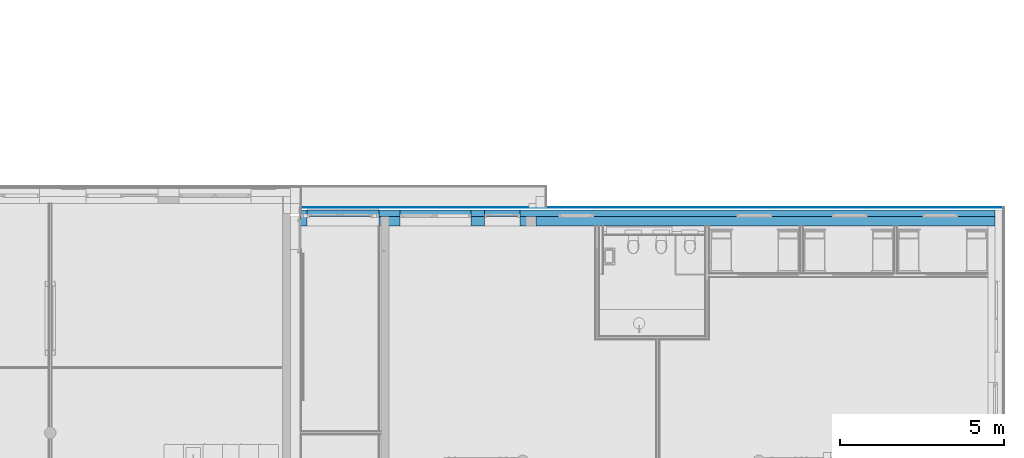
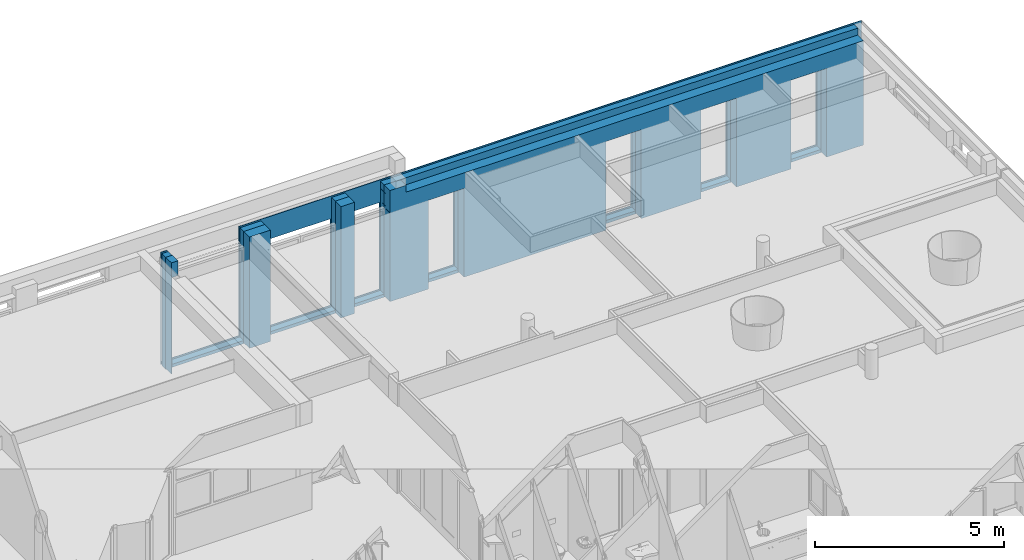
# One storey, part 46 of 167: 3 building element parts, 11 openings, 1 element without a shape of its own.
"""IFC2X3 building model written with IfcOpenShell, lengths in millimetres."""

from ifc_helpers import new_model, entity, si_unit, converted_unit, derived_unit, money_unit, direction, frame, origin_with_axes, place, context, subcontext, project, spatial, faceted_brep, material, type_object, element, aggregate, save


model = new_model("IFC2X3")

# Units and contexts
model_context = context("Model", 3, precision=0.01, world=origin_with_axes(), true_north=direction((0.0, 1.0)))
plan_context = context("Plan", 3, precision=0.01, world=origin_with_axes(), true_north=direction((0.0, 1.0)))
body_context = subcontext(model_context, "Body", "Model", "MODEL_VIEW")
ifc_project = project(units=[si_unit("LENGTHUNIT", "METRE", prefix="MILLI"), si_unit("AREAUNIT", "SQUARE_METRE"), si_unit("VOLUMEUNIT", "CUBIC_METRE"), converted_unit("PLANEANGLEUNIT", "DEGREE", entity("IfcPlaneAngleMeasure", 0.0174532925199), si_unit("PLANEANGLEUNIT", "RADIAN"), dimensions=[0, 0, 0, 0, 0, 0, 0]), si_unit("SOLIDANGLEUNIT", "STERADIAN"), money_unit("EUR"), converted_unit("TIMEUNIT", "Year", entity("IfcTimeMeasure", 31556926.0), si_unit("TIMEUNIT", "SECOND"), dimensions=[0, 0, 1, 0, 0, 0, 0]), si_unit("MASSUNIT", "GRAM", prefix="KILO"), si_unit("THERMODYNAMICTEMPERATUREUNIT", "DEGREE_CELSIUS"), si_unit("LUMINOUSINTENSITYUNIT", "LUMEN"), si_unit("ENERGYUNIT", "JOULE", prefix="MEGA"), derived_unit("THERMALCONDUCTANCEUNIT", [(si_unit("POWERUNIT", "WATT"), 1), (si_unit("LENGTHUNIT", "METRE"), -1), (si_unit("THERMODYNAMICTEMPERATUREUNIT", "KELVIN"), -1)]), derived_unit("SPECIFICHEATCAPACITYUNIT", [(si_unit("ENERGYUNIT", "JOULE"), 1), (si_unit("MASSUNIT", "GRAM", prefix="KILO"), -1), (si_unit("THERMODYNAMICTEMPERATUREUNIT", "KELVIN"), -1)]), derived_unit("MASSDENSITYUNIT", [(si_unit("MASSUNIT", "GRAM", prefix="KILO"), 1), (si_unit("VOLUMEUNIT", "CUBIC_METRE"), -1)])], contexts=[model_context, plan_context])

# Site, building, storey
site_placement = place(None, origin_with_axes())
site = spatial("IfcSite", under=ifc_project, at=site_placement, Name="Site", CompositionType="ELEMENT")
building_placement = place(site_placement, origin_with_axes())
building = spatial("IfcBuilding", under=site, at=building_placement, Name="Naam gebouw", CompositionType="ELEMENT")
storey_placement = place(building_placement, origin_with_axes())
storey = spatial("IfcBuildingStorey", under=building, at=storey_placement, Name="Begane grond", CompositionType="ELEMENT", Elevation=0.0)

# Wall, openings, building element parts
wall_type = type_object("IfcWallType", Name="_TenW_21_Spouwmuur ht-kz-300- RC 4,7 574", PredefinedType="NOTDEFINED")
wall_placement = place(storey_placement, frame((43200.0, 49800.0, -100.0), z_axis=(0.0, 0.0, 1.0), x_axis=(-1.0, 0.0, 0.0)))
wall = element("IfcWall", 1, at=wall_placement, inside=storey, type_object=wall_type, Name="21_Wand_Wand-x")
opening_1_placement = place(wall_placement, frame((4429.92335002, 0.0, 99.9999574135), z_axis=(0.0, 0.0, 1.0), x_axis=(1.0, 0.0, 0.0)))
element("IfcOpeningElement", 2, at=opening_1_placement, cuts=wall, Name="31_Raam_He-18", context=body_context, shape_type="Brep", body=[
    faceted_brep([(-542.0, -74.0, 0.0), (-542.0, -74.0, 2800.0), (-542.0, 874.0, 2800.0), (-542.0, 874.0, 0.0), (542.0, -74.0, 0.0), (542.0, -74.0, 2800.0), (542.0, 874.0, 2800.0), (542.0, 874.0, 0.0)], [[[0, 1, 2, 3]], [[0, 4, 5, 1]], [[1, 5, 6, 2]], [[3, 2, 6, 7]], [[4, 0, 3, 7]], [[5, 4, 7, 6]]]),
    faceted_brep([(-542.0, -74.0, 2800.0), (-542.0, -74.0, 0.0), (-542.0, -848.0, 0.0), (-542.0, -848.0, 2800.0), (542.0, -74.0, 2800.0), (542.0, -74.0, 0.0), (542.0, -848.0, 0.0), (542.0, -848.0, 2800.0)], [[[0, 1, 2, 3]], [[0, 4, 5, 1]], [[1, 5, 6, 2]], [[3, 2, 6, 7]], [[4, 0, 3, 7]], [[5, 4, 7, 6]]]),
])
opening_2_placement = place(wall_placement, frame((7340.53335002, 0.0, 99.9999574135), z_axis=(0.0, 0.0, 1.0), x_axis=(1.0, 0.0, 0.0)))
element("IfcOpeningElement", 3, at=opening_2_placement, cuts=wall, Name="31_Raam_He-18", context=body_context, shape_type="Brep", body=[
    faceted_brep([(-542.0, -74.0, 0.0), (-542.0, -74.0, 2800.0), (-542.0, 874.0, 2800.0), (-542.0, 874.0, 0.0), (542.0, -74.0, 0.0), (542.0, -74.0, 2800.0), (542.0, 874.0, 2800.0), (542.0, 874.0, 0.0)], [[[0, 1, 2, 3]], [[0, 4, 5, 1]], [[1, 5, 6, 2]], [[3, 2, 6, 7]], [[4, 0, 3, 7]], [[5, 4, 7, 6]]]),
    faceted_brep([(-542.0, -74.0, 2800.0), (-542.0, -74.0, 0.0), (-542.0, -848.0, 0.0), (-542.0, -848.0, 2800.0), (542.0, -74.0, 2800.0), (542.0, -74.0, 0.0), (542.0, -848.0, 0.0), (542.0, -848.0, 2800.0)], [[[0, 1, 2, 3]], [[0, 4, 5, 1]], [[1, 5, 6, 2]], [[3, 2, 6, 7]], [[4, 0, 3, 7]], [[5, 4, 7, 6]]]),
])
opening_3_placement = place(wall_placement, frame((17604.26335, 0.0, 99.9999574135), z_axis=(0.0, 0.0, 1.0), x_axis=(1.0, 0.0, 0.0)))
element("IfcOpeningElement", 4, at=opening_3_placement, cuts=wall, Name="31_Raam_He-09s", context=body_context, shape_type="Brep", body=[
    faceted_brep([(-541.26, -74.0, 0.0), (-541.26, -74.0, 2800.0), (-541.26, 874.0, 2800.0), (-541.26, 874.0, 0.0), (541.26, -74.0, 0.0), (541.26, -74.0, 2800.0), (541.26, 874.0, 2800.0), (541.26, 874.0, 0.0)], [[[0, 1, 2, 3]], [[0, 4, 5, 1]], [[1, 5, 6, 2]], [[3, 2, 6, 7]], [[4, 0, 3, 7]], [[5, 4, 7, 6]]]),
    faceted_brep([(-541.26, -74.0, 2800.0), (-541.26, -74.0, 0.0), (-541.26, -848.0, 0.0), (-541.26, -848.0, 2800.0), (541.26, -74.0, 2800.0), (541.26, -74.0, 0.0), (541.26, -848.0, 0.0), (541.26, -848.0, 2800.0)], [[[0, 1, 2, 3]], [[0, 4, 5, 1]], [[1, 5, 6, 2]], [[3, 2, 6, 7]], [[4, 0, 3, 7]], [[5, 4, 7, 6]]]),
])
opening_4_placement = place(wall_placement, frame((12764.9704785, 0.0, 99.9999574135), z_axis=(0.0, 0.0, 1.0), x_axis=(1.0, 0.0, 0.0)))
element("IfcOpeningElement", 5, at=opening_4_placement, cuts=wall, Name="31_Raam_He-12", context=body_context, shape_type="Brep", body=[
    faceted_brep([(-542.0, -74.0, 0.0), (-542.0, -74.0, 2800.0), (-542.0, 874.0, 2800.0), (-542.0, 874.0, 0.0), (542.0, -74.0, 0.0), (542.0, -74.0, 2800.0), (542.0, 874.0, 2800.0), (542.0, 874.0, 0.0)], [[[0, 1, 2, 3]], [[0, 4, 5, 1]], [[1, 5, 6, 2]], [[3, 2, 6, 7]], [[4, 0, 3, 7]], [[5, 4, 7, 6]]]),
    faceted_brep([(-542.0, -74.0, 2800.0), (-542.0, -74.0, 0.0), (-542.0, -848.0, 0.0), (-542.0, -848.0, 2800.0), (542.0, -74.0, 2800.0), (542.0, -74.0, 0.0), (542.0, -848.0, 0.0), (542.0, -848.0, 2800.0)], [[[0, 1, 2, 3]], [[0, 4, 5, 1]], [[1, 5, 6, 2]], [[3, 2, 6, 7]], [[4, 0, 3, 7]], [[5, 4, 7, 6]]]),
])
opening_5_placement = place(wall_placement, frame((16524.25335, 0.0, 99.9999574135), z_axis=(0.0, 0.0, 1.0), x_axis=(1.0, 0.0, 0.0)))
element("IfcOpeningElement", 6, at=opening_5_placement, cuts=wall, Name="31_Raam_He-15", context=body_context, shape_type="Brep", body=[
    faceted_brep([(-542.0, -74.0, 0.0), (-542.0, -74.0, 2800.0), (-542.0, 874.0, 2800.0), (-542.0, 874.0, 0.0), (542.0, -74.0, 0.0), (542.0, -74.0, 2800.0), (542.0, 874.0, 2800.0), (542.0, 874.0, 0.0)], [[[0, 1, 2, 3]], [[0, 4, 5, 1]], [[1, 5, 6, 2]], [[3, 2, 6, 7]], [[4, 0, 3, 7]], [[5, 4, 7, 6]]]),
    faceted_brep([(-542.0, -74.0, 2800.0), (-542.0, -74.0, 0.0), (-542.0, -848.0, 0.0), (-542.0, -848.0, 2800.0), (542.0, -74.0, 2800.0), (542.0, -74.0, 0.0), (542.0, -848.0, 0.0), (542.0, -848.0, 2800.0)], [[[0, 1, 2, 3]], [[0, 4, 5, 1]], [[1, 5, 6, 2]], [[3, 2, 6, 7]], [[4, 0, 3, 7]], [[5, 4, 7, 6]]]),
])
opening_6_placement = place(wall_placement, frame((1672.50335002, 0.0, 99.9999574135), z_axis=(0.0, 0.0, 1.0), x_axis=(1.0, 0.0, 0.0)))
element("IfcOpeningElement", 7, at=opening_6_placement, cuts=wall, Name="31_Raam_He-18", context=body_context, shape_type="Brep", body=[
    faceted_brep([(-542.0, -74.0, 0.0), (-542.0, -74.0, 2800.0), (-542.0, 874.0, 2800.0), (-542.0, 874.0, 0.0), (542.0, -74.0, 0.0), (542.0, -74.0, 2800.0), (542.0, 874.0, 2800.0), (542.0, 874.0, 0.0)], [[[0, 1, 2, 3]], [[0, 4, 5, 1]], [[1, 5, 6, 2]], [[3, 2, 6, 7]], [[4, 0, 3, 7]], [[5, 4, 7, 6]]]),
    faceted_brep([(-542.0, -74.0, 2800.0), (-542.0, -74.0, 0.0), (-542.0, -848.0, 0.0), (-542.0, -848.0, 2800.0), (542.0, -74.0, 2800.0), (542.0, -74.0, 0.0), (542.0, -848.0, 0.0), (542.0, -848.0, 2800.0)], [[[0, 1, 2, 3]], [[0, 4, 5, 1]], [[1, 5, 6, 2]], [[3, 2, 6, 7]], [[4, 0, 3, 7]], [[5, 4, 7, 6]]]),
])
opening_7_placement = place(wall_placement, frame((19967.9999954, 0.0, 100.0), z_axis=(0.0, 0.0, 1.0), x_axis=(1.0, 0.0, 0.0)))
element("IfcOpeningElement", 8, at=opening_7_placement, cuts=wall, Name="32_Deur_He-03", context=body_context, shape_type="Brep", body=[
    faceted_brep([(-1183.00000459, 874.0, 3050.0), (-1183.00000459, 874.0, 0.0), (-1183.00000459, -74.0, 0.0), (-1183.00000459, -74.0, 3050.0), (1183.00000459, 874.0, 3050.0), (1183.00000459, 874.0, 0.0), (1183.00000459, -74.0, 0.0), (1183.00000459, -74.0, 3050.0)], [[[0, 1, 2, 3]], [[0, 4, 5, 1]], [[1, 5, 6, 2]], [[3, 2, 6, 7]], [[4, 0, 3, 7]], [[5, 4, 7, 6]]]),
    faceted_brep([(-1183.00000459, -848.0, 0.0), (-1183.00000459, -848.0, 3050.0), (-1183.00000459, -74.0, 3050.0), (-1183.00000459, -74.0, 0.0), (1183.00000459, -848.0, 0.0), (1183.00000459, -848.0, 3050.0), (1183.00000459, -74.0, 3050.0), (1183.00000459, -74.0, 0.0)], [[[0, 1, 2, 3]], [[0, 4, 5, 1]], [[1, 5, 6, 2]], [[3, 2, 6, 7]], [[4, 0, 3, 7]], [[5, 4, 7, 6]]]),
])
opening_8_placement = place(wall_placement, frame((15028.650887, 0.0, 100.0), z_axis=(0.0, 0.0, 1.0), x_axis=(1.0, 0.0, 0.0)))
element("IfcOpeningElement", 9, at=opening_8_placement, cuts=wall, Name="32_Deur_He-06", context=body_context, shape_type="Brep", body=[
    faceted_brep([(-542.0, 874.0, 2800.0), (-542.0, 874.0, 0.0), (-542.0, -74.0, 0.0), (-542.0, -74.0, 2800.0), (542.0, 874.0, 2800.0), (542.0, 874.0, 0.0), (542.0, -74.0, 0.0), (542.0, -74.0, 2800.0)], [[[0, 1, 2, 3]], [[0, 4, 5, 1]], [[1, 5, 6, 2]], [[3, 2, 6, 7]], [[4, 0, 3, 7]], [[5, 4, 7, 6]]]),
    faceted_brep([(-542.0, -848.0, 0.0), (-542.0, -848.0, 2800.0), (-542.0, -74.0, 2800.0), (-542.0, -74.0, 0.0), (542.0, -848.0, 0.0), (542.0, -848.0, 2800.0), (542.0, -74.0, 2800.0), (542.0, -74.0, 0.0)], [[[0, 1, 2, 3]], [[0, 4, 5, 1]], [[1, 5, 6, 2]], [[3, 2, 6, 7]], [[4, 0, 3, 7]], [[5, 4, 7, 6]]]),
])
opening_9_placement = place(wall_placement, frame((43200.0, 49800.0, 100.0), z_axis=(0.0, 0.0, 1.0), x_axis=(-1.0, 0.0, 0.0)))
element("IfcOpeningElement", 10, at=opening_9_placement, cuts=wall, Name="_Lege opening_Doorvoer-x", context=body_context, shape_type="Brep", body=[
    faceted_brep([(24415.0000092, 50074.0, 3050.0), (24415.0000092, 50074.0, 3529.99999902), (24415.0000092, 48926.0, 3529.99999902), (24415.0000092, 48926.0, 3050.0), (22225.0000092, 50074.0, 3050.0), (22225.0000092, 50074.0, 3529.99999902), (22225.0000092, 48926.0, 3529.99999902), (22225.0000092, 48926.0, 3050.0)], [[[0, 1, 2, 3]], [[0, 4, 5, 1]], [[1, 5, 6, 2]], [[3, 2, 6, 7]], [[4, 0, 3, 7]], [[5, 4, 7, 6]]]),
])
opening_10_placement = place(wall_placement, frame((43200.0, 49800.0, 100.0), z_axis=(0.0, 0.0, 1.0), x_axis=(-1.0, 0.0, 0.0)))
element("IfcOpeningElement", 11, at=opening_10_placement, cuts=wall, Name="_Lege opening_Doorvoer-x", context=body_context, shape_type="Brep", body=[
    faceted_brep([(27222.8119318, 50000.0, 2799.99995741), (27222.8119318, 50000.0, 3529.99999902), (27222.8119318, 48926.0, 3529.99999902), (27222.8119318, 48926.0, 2799.99995741), (25054.47665, 50000.0, 2799.99995741), (25054.47665, 50000.0, 3529.99999902), (25054.47665, 48926.0, 3529.99999902), (25054.47665, 48926.0, 2799.99995741)], [[[0, 1, 2, 3]], [[0, 4, 5, 1]], [[1, 5, 6, 2]], [[3, 2, 6, 7]], [[4, 0, 3, 7]], [[5, 4, 7, 6]]]),
])
opening_11_placement = place(wall_placement, frame((43200.0, 49800.0, 100.0), z_axis=(0.0, 0.0, 1.0), x_axis=(-1.0, 0.0, 0.0)))
element("IfcOpeningElement", 12, at=opening_11_placement, cuts=wall, Name="_Lege opening_Doorvoer-x", context=body_context, shape_type="Brep", body=[
    faceted_brep([(28713.349113, 50000.0, 2799.99995741), (28713.349113, 50000.0, 3529.99999902), (28713.349113, 48926.0, 3529.99999902), (28713.349113, 48926.0, 2799.99995741), (27630.829113, 50000.0, 2799.99995741), (27630.829113, 50000.0, 3529.99999902), (27630.829113, 48926.0, 3529.99999902), (27630.829113, 48926.0, 2799.99995741)], [[[0, 1, 2, 3]], [[0, 4, 5, 1]], [[1, 5, 6, 2]], [[3, 2, 6, 7]], [[4, 0, 3, 7]], [[5, 4, 7, 6]]]),
])
ifc_material_1 = material(Name="Steen - Kalkzandsteen C")
building_element_part_1_placement = place(wall_placement, origin_with_axes())
building_element_part_1 = element("IfcBuildingElementPart", 13, at=building_element_part_1_placement, material=ifc_material_1, Name="Steen - Kalkzandsteen C", context=body_context, shape_type="Brep", body=[
    faceted_brep([(18145.52335, 0.0, 30.0), (18784.9999908, 0.0, 30.0), (18784.9999908, 0.0, 100.0), (18784.9999908, 0.0, 3129.99999902), (18784.9999908, 0.0, 3150.0), (18784.9999908, 0.0, 3629.99999902), (18145.52335, 0.0, 3629.99999902), (18145.52335, 0.0, 3399.99995741), (18167.1880682, 0.0, 3399.99995741), (18167.1880682, 0.0, 2899.99995741), (18149.1880682, 0.0, 2899.99995741), (18149.1880682, 0.0, 2979.99995741), (18145.52335, 0.0, 2979.99995741), (18145.52335, 0.0, 2899.99995741), (18145.52335, 0.0, 99.9999574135), (18784.9999908, 300.0, 30.0), (18145.52335, 300.0, 30.0), (18784.9999908, 300.0, 100.0), (18784.9999908, 300.0, 3150.0), (18784.9999908, 70.0, 3150.0), (18784.9999908, 70.0, 3129.99999902), (18784.9999908, 300.0, 3629.99999902), (18145.52335, 300.0, 3629.99999902), (18145.52335, 70.0, 2979.99995741), (18145.52335, 70.0, 2989.99995741), (18145.52335, 0.0, 2989.99995741), (18145.52335, 0.0, 3389.99995741), (18145.52335, 70.0, 3389.99995741), (18145.52335, 70.0, 3399.99995741), (18145.52335, 300.0, 2899.99995741), (18145.52335, 282.0, 2899.99995741), (18145.52335, 282.0, 2909.99995741), (18145.52335, 82.335281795, 2909.99995741), (18145.52335, 82.335281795, 2899.99995741), (18167.1880682, 70.0, 3399.99995741), (18167.1880682, 70.0, 2899.99995741), (18149.1880682, 70.0, 2899.99995741), (18149.1880682, 70.0, 2979.99995741), (18145.52335, 300.0, 99.9999574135), (18149.1880682, 70.0, 2989.99995741), (18149.1880682, 70.0, 3389.99995741), (18149.1880682, 0.0, 2989.99995741), (18149.1880682, 0.0, 3389.99995741), (18167.1880682, 282.0, 2899.99995741), (18167.1880682, 282.0, 2909.99995741), (18167.1880682, 82.335281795, 2909.99995741), (18167.1880682, 82.335281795, 2899.99995741)], [[[0, 1, 2, 3, 4, 5, 6, 7, 8, 9, 10, 11, 12, 13, 14]], [[15, 1, 0, 16]], [[1, 15, 17, 2]], [[18, 19, 20, 3, 2, 17]], [[4, 3, 20, 19]], [[5, 4, 19, 18, 21]], [[5, 21, 22, 6]], [[13, 12, 23, 24, 25, 26, 27, 28, 7, 6, 22, 29, 30, 31, 32, 33]], [[7, 28, 34, 8]], [[35, 9, 8, 34]], [[36, 10, 9, 35]], [[37, 11, 10, 36]], [[23, 12, 11, 37]], [[13, 33, 30, 29, 38, 14]], [[38, 16, 0, 14]], [[22, 21, 18, 17, 15, 16, 38, 29]], [[39, 24, 23, 37, 36, 35, 34, 28, 27, 40]], [[41, 25, 24, 39]], [[25, 41, 42, 26]], [[27, 26, 42, 40]], [[31, 30, 43, 44]], [[32, 31, 44, 45]], [[33, 32, 45, 46]], [[33, 46, 43, 30]], [[41, 39, 40, 42]], [[46, 45, 44, 43]]]),
    faceted_brep([(15569.170887, 300.0, 2900.0), (15569.170887, 0.0, 2900.0), (15569.170887, 0.0, 3629.99999902), (15569.170887, 300.0, 3629.99999902), (15570.650887, 0.0, 2900.0), (15570.650887, 300.0, 2900.0), (15570.650887, 0.0, 100.0), (15570.650887, 0.0, 30.0), (15982.25335, 0.0, 30.0), (15982.25335, 0.0, 99.9999574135), (15982.25335, 0.0, 2899.99995741), (15977.1880682, 0.0, 2899.99995741), (15977.1880682, 0.0, 3629.99999902), (15977.1880682, 300.0, 3629.99999902), (15977.1880682, 300.0, 2899.99995741), (15982.25335, 300.0, 2899.99995741), (15982.25335, 300.0, 99.9999574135), (15982.25335, 300.0, 30.0), (15570.650887, 300.0, 30.0), (15570.650887, 300.0, 100.0)], [[[0, 1, 2, 3]], [[4, 1, 0, 5]], [[4, 6, 7, 8, 9, 10, 11, 12, 2, 1]], [[13, 3, 2, 12]], [[5, 0, 3, 13, 14, 15, 16, 17, 18, 19]], [[6, 4, 5, 19]], [[6, 19, 18, 7]], [[8, 7, 18, 17]], [[16, 9, 8, 17]], [[15, 10, 9, 16]], [[10, 15, 14, 11]], [[14, 13, 12, 11]]]),
    faceted_brep([(20974.9999908, 0.0, 3629.99999902), (20974.9999908, 300.0, 3629.99999902), (20974.9999908, 300.0, 3150.0), (20974.9999908, 0.0, 3150.0), (21171.0, 0.0, 3629.99999902), (21171.0, 300.0, 3629.99999902), (21151.0, 300.0, 30.0), (21151.0, 300.0, 100.0), (21151.0, 300.0, 3150.0), (21171.0, 300.0, 30.0), (21151.0, 0.0, 3150.0), (21151.0, 0.0, 100.0), (21151.0, 0.0, 30.0), (21171.0, 0.0, 30.0)], [[[0, 1, 2, 3]], [[4, 5, 1, 0]], [[6, 7, 8, 2, 1, 5, 9]], [[2, 8, 10, 3]], [[0, 3, 10, 11, 12, 13, 4]], [[13, 9, 5, 4]], [[6, 12, 11, 7]], [[8, 7, 11, 10]], [[12, 6, 9, 13]]]),
    faceted_brep([(14486.650887, 0.0, 100.0), (14486.650887, 0.0, 2900.0), (14486.650887, 0.0, 2979.99995741), (14482.170887, 0.0, 2979.99995741), (14482.170887, 0.0, 2899.99995741), (14464.170887, 0.0, 2899.99995741), (14464.170887, 0.0, 3399.99995741), (14486.650887, 0.0, 3399.99995741), (14486.650887, 0.0, 3629.99999902), (14000.0, 0.0, 3629.99999902), (14000.0, 0.0, 3405.0), (0.0, 0.0, 3405.0), (0.0, 0.0, 30.0), (1130.50335002, 0.0, 30.0), (1130.50335002, 0.0, 99.9999574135), (1130.50335002, 0.0, 2899.99995741), (2214.50335002, 0.0, 2899.99995741), (2214.50335002, 0.0, 99.9999574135), (2214.50335002, 0.0, 30.0), (3887.92335002, 0.0, 30.0), (3887.92335002, 0.0, 99.9999574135), (3887.92335002, 0.0, 2899.99995741), (4971.92335002, 0.0, 2899.99995741), (4971.92335002, 0.0, 99.9999574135), (4971.92335002, 0.0, 30.0), (6798.53335002, 0.0, 30.0), (6798.53335002, 0.0, 99.9999574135), (6798.53335002, 0.0, 2899.99995741), (7882.53335002, 0.0, 2899.99995741), (7882.53335002, 0.0, 99.9999574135), (7882.53335002, 0.0, 30.0), (12222.9704785, 0.0, 30.0), (12222.9704785, 0.0, 99.9999574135), (12222.9704785, 0.0, 2899.99995741), (13306.9704785, 0.0, 2899.99995741), (13306.9704785, 0.0, 99.9999574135), (13306.9704785, 0.0, 30.0), (14486.650887, 0.0, 30.0), (14486.650887, 82.335281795, 2900.0), (14486.650887, 300.0, 100.0), (14486.650887, 300.0, 2900.0), (14486.650887, 282.0, 2900.0), (14486.650887, 300.0, 3629.99999902), (14486.650887, 70.0, 3399.99995741), (14486.650887, 70.0, 3389.99995741), (14486.650887, 0.0, 3389.99995741), (14486.650887, 0.0, 2989.99995741), (14486.650887, 70.0, 2989.99995741), (14486.650887, 70.0, 2979.99995741), (14486.650887, 82.335281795, 2909.99995741), (14486.650887, 282.0, 2909.99995741), (14482.170887, 70.0, 2979.99995741), (14482.170887, 70.0, 2899.99995741), (14464.170887, 70.0, 2899.99995741), (14464.170887, 70.0, 3399.99995741), (14000.0, 300.0, 3629.99999902), (14000.0, 300.0, 3405.0), (0.0, 300.0, 3405.0), (0.0, 300.0, 30.0), (1130.50335002, 300.0, 30.0), (1130.50335002, 300.0, 99.9999574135), (1130.50335002, 300.0, 2899.99995741), (2214.50335002, 300.0, 2899.99995741), (2214.50335002, 300.0, 99.9999574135), (2214.50335002, 300.0, 30.0), (3887.92335002, 300.0, 30.0), (3887.92335002, 300.0, 99.9999574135), (3887.92335002, 300.0, 2899.99995741), (4971.92335002, 300.0, 2899.99995741), (4971.92335002, 300.0, 99.9999574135), (4971.92335002, 300.0, 30.0), (6798.53335002, 300.0, 30.0), (6798.53335002, 300.0, 99.9999574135), (6798.53335002, 300.0, 2899.99995741), (7882.53335002, 300.0, 2899.99995741), (7882.53335002, 300.0, 99.9999574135), (7882.53335002, 300.0, 30.0), (12222.9704785, 300.0, 30.0), (12222.9704785, 300.0, 99.9999574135), (12222.9704785, 300.0, 2899.99995741), (13306.9704785, 300.0, 2899.99995741), (13306.9704785, 300.0, 99.9999574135), (13306.9704785, 300.0, 30.0), (14486.650887, 300.0, 30.0), (14469.170887, 282.0, 2899.99995741), (14469.170887, 82.335281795, 2899.99995741), (14482.170887, 70.0, 2989.99995741), (14482.170887, 70.0, 3389.99995741), (14482.170887, 0.0, 3389.99995741), (14482.170887, 0.0, 2989.99995741), (14469.170887, 82.335281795, 2909.99995741), (14469.170887, 282.0, 2909.99995741)], [[[0, 1, 2, 3, 4, 5, 6, 7, 8, 9, 10, 11, 12, 13, 14, 15, 16, 17, 18, 19, 20, 21, 22, 23, 24, 25, 26, 27, 28, 29, 30, 31, 32, 33, 34, 35, 36, 37]], [[38, 1, 0, 39, 40, 41]], [[41, 40, 42, 8, 7, 43, 44, 45, 46, 47, 48, 2, 1, 38, 49, 50]], [[3, 2, 48, 51]], [[51, 52, 4, 3]], [[5, 4, 52, 53]], [[6, 5, 53, 54]], [[6, 54, 43, 7]], [[9, 8, 42, 55]], [[10, 9, 55, 56]], [[11, 10, 56, 57]], [[57, 58, 12, 11]], [[13, 12, 58, 59]], [[59, 60, 14, 13]], [[61, 15, 14, 60]], [[62, 16, 15, 61]], [[63, 17, 16, 62]], [[18, 17, 63, 64]], [[19, 18, 64, 65]], [[66, 20, 19, 65]], [[21, 20, 66, 67]], [[22, 21, 67, 68]], [[23, 22, 68, 69]], [[23, 69, 70, 24]], [[25, 24, 70, 71]], [[71, 72, 26, 25]], [[73, 27, 26, 72]], [[74, 28, 27, 73]], [[75, 29, 28, 74]], [[30, 29, 75, 76]], [[31, 30, 76, 77]], [[32, 31, 77, 78]], [[32, 78, 79, 33]], [[33, 79, 80, 34]], [[34, 80, 81, 35]], [[81, 82, 36, 35]], [[37, 36, 82, 83]], [[39, 0, 37, 83]], [[40, 39, 83, 82, 81, 80, 79, 78, 77, 76, 75, 74, 73, 72, 71, 70, 69, 68, 67, 66, 65, 64, 63, 62, 61, 60, 59, 58, 57, 56, 55, 42]], [[38, 41, 84, 85]], [[54, 53, 52, 51, 48, 47, 86, 87, 44, 43]], [[88, 45, 44, 87]], [[46, 45, 88, 89]], [[89, 86, 47, 46]], [[38, 85, 90, 49]], [[49, 90, 91, 50]], [[50, 91, 84, 41]], [[91, 90, 85, 84]], [[89, 88, 87, 86]]]),
])
ifc_material_2 = material(Name="Isolatie - Steenwol zacht")
building_element_part_2_placement = place(wall_placement, origin_with_axes())
building_element_part_2 = element("IfcBuildingElementPart", 14, at=building_element_part_2_placement, material=ifc_material_2, Name="Isolatie - Steenwol zacht", context=body_context, shape_type="Brep", body=[
    faceted_brep([(14486.650887, -74.0, 100.0), (14486.650887, -74.0, 2900.0), (14486.650887, -200.0, 2900.0), (14486.650887, -200.0, 100.0), (14486.650887, 0.0, 2900.0), (14486.650887, 0.0, 100.0), (14486.650887, 0.0, 2979.99995741), (14486.650887, -90.0, 2979.99995741), (14486.650887, -90.0, 2989.99995741), (14486.650887, 0.0, 2989.99995741), (14486.650887, 0.0, 3389.99995741), (14486.650887, -170.0, 3389.99995741), (14486.650887, -170.0, 3399.99995741), (14486.650887, 0.0, 3399.99995741), (14486.650887, 0.0, 3629.99999902), (14486.650887, -200.0, 3629.99999902), (15569.170887, -200.0, 3629.99999902), (15569.170887, -200.0, 2900.0), (15570.650887, -200.0, 2900.0), (15570.650887, -200.0, 100.0), (0.0, -200.0, 3629.99999903), (0.0, -200.0, 0.0), (21171.0, -200.0, 0.0), (21171.0, -200.0, 3629.99999902), (20974.9999908, -200.0, 3629.99999902), (20974.9999908, -200.0, 3150.0), (21151.0, -200.0, 3150.0), (21151.0, -200.0, 100.0), (18784.9999908, -200.0, 100.0), (18784.9999908, -200.0, 3150.0), (18784.9999908, -200.0, 3629.99999902), (18145.52335, -200.0, 3629.99999902), (18145.52335, -200.0, 2899.99995741), (18145.52335, -200.0, 99.9999574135), (15982.25335, -200.0, 99.9999574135), (15982.25335, -200.0, 2899.99995741), (15977.1880682, -200.0, 2899.99995741), (15977.1880682, -200.0, 3629.99999902), (4971.92335002, -200.0, 2899.99995741), (4971.92335002, -200.0, 99.9999574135), (3887.92335002, -200.0, 99.9999574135), (3887.92335002, -200.0, 2899.99995741), (6798.53335002, -200.0, 99.9999574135), (6798.53335002, -200.0, 2899.99995741), (7882.53335002, -200.0, 2899.99995741), (7882.53335002, -200.0, 99.9999574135), (12222.9704785, -200.0, 99.9999574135), (12222.9704785, -200.0, 2899.99995741), (13306.9704785, -200.0, 2899.99995741), (13306.9704785, -200.0, 99.9999574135), (1130.50335002, -200.0, 99.9999574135), (1130.50335002, -200.0, 2899.99995741), (2214.50335002, -200.0, 2899.99995741), (2214.50335002, -200.0, 99.9999574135), (15570.650887, -74.0, 100.0), (15570.650887, 0.0, 100.0), (15570.650887, 0.0, 2900.0), (15569.170887, 0.0, 2900.0), (15569.170887, 0.0, 3629.99999902), (15977.1880682, 0.0, 3629.99999902), (15977.1880682, 0.0, 2899.99995741), (15982.25335, 0.0, 2899.99995741), (15982.25335, 0.0, 99.9999574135), (18145.52335, 0.0, 99.9999574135), (18145.52335, 0.0, 2899.99995741), (18145.52335, 0.0, 2979.99995741), (18149.1880682, 0.0, 2979.99995741), (18149.1880682, 0.0, 2899.99995741), (18167.1880682, 0.0, 2899.99995741), (18167.1880682, 0.0, 3399.99995741), (18145.52335, 0.0, 3399.99995741), (18145.52335, 0.0, 3629.99999902), (18784.9999908, 0.0, 3629.99999902), (18784.9999908, 0.0, 3150.0), (18784.9999908, 0.0, 3129.99999902), (18784.9999908, 0.0, 100.0), (21151.0, 0.0, 100.0), (21151.0, 0.0, 3150.0), (20974.9999908, 0.0, 3150.0), (20974.9999908, 0.0, 3629.99999902), (21171.0, 0.0, 3629.99999902), (21171.0, 0.0, 0.0), (0.0, 0.0, 0.0), (0.0, 0.0, 3629.99999905), (14464.170887, 0.0, 3399.99995741), (14464.170887, 0.0, 2899.99995741), (14482.170887, 0.0, 2899.99995741), (14482.170887, 0.0, 2979.99995741), (3887.92335002, 0.0, 2899.99995741), (3887.92335002, 0.0, 99.9999574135), (4971.92335002, 0.0, 99.9999574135), (4971.92335002, 0.0, 2899.99995741), (7882.53335002, 0.0, 99.9999574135), (7882.53335002, 0.0, 2899.99995741), (6798.53335002, 0.0, 2899.99995741), (6798.53335002, 0.0, 99.9999574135), (13306.9704785, 0.0, 99.9999574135), (13306.9704785, 0.0, 2899.99995741), (12222.9704785, 0.0, 2899.99995741), (12222.9704785, 0.0, 99.9999574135), (2214.50335002, 0.0, 99.9999574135), (2214.50335002, 0.0, 2899.99995741), (1130.50335002, 0.0, 2899.99995741), (1130.50335002, 0.0, 99.9999574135), (14482.170887, -90.0, 2979.99995741), (14482.170887, -90.0, 2989.99995741), (14482.170887, 0.0, 2989.99995741), (14482.170887, 0.0, 3389.99995741), (14482.170887, -170.0, 3389.99995741), (14482.170887, -170.0, 3399.99995741), (14482.170887, -188.0, 3399.99995741), (14464.170887, -188.0, 3399.99995741), (15569.170887, -74.0, 2900.0), (15570.650887, -74.0, 2900.0), (20974.9999908, -74.0, 3150.0), (21151.0, -74.0, 3150.0), (21151.0, -74.0, 100.0), (18784.9999908, -74.0, 100.0), (18784.9999908, -74.0, 3129.99999902), (18784.9999908, -188.0, 3129.99999902), (18784.9999908, -188.0, 3150.0), (18145.52335, 0.0, 2989.99995741), (18145.52335, -90.0, 2989.99995741), (18145.52335, -90.0, 2979.99995741), (18145.52335, -74.0, 2899.99995741), (18145.52335, -170.0, 3399.99995741), (18145.52335, -170.0, 3389.99995741), (18145.52335, 0.0, 3389.99995741), (18145.52335, -74.0, 99.9999574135), (15982.25335, -74.0, 99.9999574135), (15982.25335, -74.0, 2899.99995741), (4971.92335002, -74.0, 2899.99995741), (4971.92335002, -74.0, 99.9999574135), (3887.92335002, -74.0, 99.9999574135), (3887.92335002, -74.0, 2899.99995741), (6798.53335002, -74.0, 99.9999574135), (6798.53335002, -74.0, 2899.99995741), (7882.53335002, -74.0, 2899.99995741), (7882.53335002, -74.0, 99.9999574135), (12222.9704785, -74.0, 99.9999574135), (12222.9704785, -74.0, 2899.99995741), (13306.9704785, -74.0, 2899.99995741), (13306.9704785, -74.0, 99.9999574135), (1130.50335002, -74.0, 99.9999574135), (1130.50335002, -74.0, 2899.99995741), (2214.50335002, -74.0, 2899.99995741), (2214.50335002, -74.0, 99.9999574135), (18149.1880682, -90.0, 2979.99995741), (18149.1880682, 0.0, 3389.99995741), (18149.1880682, -170.0, 3389.99995741), (18149.1880682, -170.0, 3399.99995741), (18149.1880682, -188.0, 3399.99995741), (18149.1880682, -188.0, 2899.99995741), (18149.1880682, -90.0, 2989.99995741), (18149.1880682, 0.0, 2989.99995741), (18167.1880682, -188.0, 2899.99995741), (18167.1880682, -188.0, 3399.99995741), (14464.170887, -188.0, 2899.99995741), (14482.170887, -188.0, 2899.99995741)], [[[0, 1, 2, 3]], [[4, 1, 0, 5]], [[1, 4, 6, 7, 8, 9, 10, 11, 12, 13, 14, 15, 2]], [[16, 17, 18, 19, 3, 2, 15, 20, 21, 22, 23, 24, 25, 26, 27, 28, 29, 30, 31, 32, 33, 34, 35, 36, 37], [38, 39, 40, 41], [42, 43, 44, 45], [46, 47, 48, 49], [50, 51, 52, 53]], [[54, 0, 3, 19]], [[0, 54, 55, 5]], [[56, 57, 58, 59, 60, 61, 62, 63, 64, 65, 66, 67, 68, 69, 70, 71, 72, 73, 74, 75, 76, 77, 78, 79, 80, 81, 82, 83, 14, 13, 84, 85, 86, 87, 6, 4, 5, 55], [88, 89, 90, 91], [92, 93, 94, 95], [96, 97, 98, 99], [100, 101, 102, 103]], [[87, 104, 7, 6]], [[104, 105, 8, 7]], [[105, 106, 9, 8]], [[9, 106, 107, 10]], [[107, 108, 11, 10]], [[108, 109, 12, 11]], [[13, 12, 109, 110, 111, 84]], [[14, 83, 20, 15]], [[57, 112, 17, 16, 58]], [[112, 113, 18, 17]], [[113, 54, 19, 18]], [[82, 21, 20, 83]], [[22, 21, 82, 81]], [[81, 80, 23, 22]], [[23, 80, 79, 24]], [[79, 78, 114, 25, 24]], [[26, 25, 114, 115]], [[27, 26, 115, 116]], [[28, 27, 116, 117]], [[117, 118, 119, 120, 29, 28]], [[120, 73, 72, 30, 29]], [[30, 72, 71, 31]], [[121, 122, 123, 65, 64, 124, 32, 31, 71, 70, 125, 126, 127]], [[33, 32, 124, 128]], [[33, 128, 129, 34]], [[35, 34, 129, 130]], [[60, 36, 35, 130, 61]], [[36, 60, 59, 37]], [[37, 59, 58, 16]], [[39, 38, 131, 132]], [[40, 39, 132, 133]], [[41, 40, 133, 134]], [[38, 41, 134, 131]], [[135, 136, 43, 42]], [[136, 137, 44, 43]], [[137, 138, 45, 44]], [[138, 135, 42, 45]], [[139, 140, 47, 46]], [[140, 141, 48, 47]], [[141, 142, 49, 48]], [[142, 139, 46, 49]], [[143, 144, 51, 50]], [[144, 145, 52, 51]], [[145, 146, 53, 52]], [[146, 143, 50, 53]], [[54, 113, 56, 55]], [[113, 112, 57, 56]], [[129, 62, 61, 130]], [[128, 63, 62, 129]], [[64, 63, 128, 124]], [[65, 123, 147, 66]], [[148, 149, 150, 151, 152, 67, 66, 147, 153, 154]], [[155, 68, 67, 152]], [[156, 69, 68, 155]], [[150, 125, 70, 69, 156, 151]], [[119, 118, 74, 73, 120]], [[117, 75, 74, 118]], [[76, 75, 117, 116]], [[77, 76, 116, 115]], [[78, 77, 115, 114]], [[157, 85, 84, 111]], [[158, 86, 85, 157]], [[86, 158, 110, 109, 108, 107, 106, 105, 104, 87]], [[89, 88, 134, 133]], [[90, 89, 133, 132]], [[91, 90, 132, 131]], [[88, 91, 131, 134]], [[138, 137, 93, 92]], [[137, 136, 94, 93]], [[136, 135, 95, 94]], [[135, 138, 92, 95]], [[142, 141, 97, 96]], [[141, 140, 98, 97]], [[140, 139, 99, 98]], [[139, 142, 96, 99]], [[146, 145, 101, 100]], [[145, 144, 102, 101]], [[144, 143, 103, 102]], [[143, 146, 100, 103]], [[158, 157, 111, 110]], [[122, 121, 154, 153]], [[123, 122, 153, 147]], [[126, 125, 150, 149]], [[127, 126, 149, 148]], [[154, 121, 127, 148]], [[155, 152, 151, 156]]]),
])
ifc_material_3 = material(Name="_TenW_21_Hout betimmering")
building_element_part_3_placement = place(wall_placement, origin_with_axes())
building_element_part_3 = element("IfcBuildingElementPart", 15, at=building_element_part_3_placement, material=ifc_material_3, Name="_TenW_21_Hout betimmering", context=body_context, shape_type="Brep", body=[
    faceted_brep([(18784.9999908, -256.0, 3150.0), (18784.9999908, -256.0, 100.0), (21151.0, -256.0, 100.0), (21151.0, -256.0, 3150.0), (20974.9999908, -256.0, 3150.0), (20974.9999908, -256.0, 3629.99999902), (21171.0, -256.0, 3629.99999902), (21171.0, -256.0, 0.0), (-256.0, -256.0, 0.0), (-256.0, -256.0, 3629.99999902), (18784.9999908, -256.0, 3629.99999902), (3887.92335002, -256.0, 99.9999574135), (4971.92335002, -256.0, 99.9999574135), (4971.92335002, -256.0, 2899.99995741), (3887.92335002, -256.0, 2899.99995741), (6798.53335002, -256.0, 2899.99995741), (6798.53335002, -256.0, 99.9999574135), (7882.53335002, -256.0, 99.9999574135), (7882.53335002, -256.0, 2899.99995741), (15982.25335, -256.0, 2899.99995741), (15982.25335, -256.0, 99.9999574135), (18145.52335, -256.0, 99.9999574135), (18145.52335, -256.0, 2899.99995741), (13306.9704785, -256.0, 99.9999574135), (13306.9704785, -256.0, 2899.99995741), (12222.9704785, -256.0, 2899.99995741), (12222.9704785, -256.0, 99.9999574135), (1130.50335002, -256.0, 2899.99995741), (1130.50335002, -256.0, 99.9999574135), (2214.50335002, -256.0, 99.9999574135), (2214.50335002, -256.0, 2899.99995741), (15570.650887, -256.0, 100.0), (15570.650887, -256.0, 2900.0), (14486.650887, -256.0, 2900.0), (14486.650887, -256.0, 100.0), (18784.9999908, -274.0, 3150.0), (18784.9999908, -274.0, 100.0), (21151.0, -274.0, 100.0), (21151.0, -274.0, 3150.0), (20974.9999908, -274.0, 3150.0), (20974.9999908, -274.0, 3629.99999902), (21171.0, -274.0, 3629.99999902), (21171.0, -274.0, 0.0), (-256.0, -274.0, 0.0), (-256.0, -274.0, 3629.99999902), (18784.9999908, -274.0, 3629.99999902), (3887.92335002, -274.0, 99.9999574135), (4971.92335002, -274.0, 99.9999574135), (4971.92335002, -274.0, 2899.99995741), (3887.92335002, -274.0, 2899.99995741), (6798.53335002, -274.0, 2899.99995741), (6798.53335002, -274.0, 99.9999574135), (7882.53335002, -274.0, 99.9999574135), (7882.53335002, -274.0, 2899.99995741), (15982.25335, -274.0, 2899.99995741), (15982.25335, -274.0, 99.9999574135), (18145.52335, -274.0, 99.9999574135), (18145.52335, -274.0, 2899.99995741), (13306.9704785, -274.0, 99.9999574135), (13306.9704785, -274.0, 2899.99995741), (12222.9704785, -274.0, 2899.99995741), (12222.9704785, -274.0, 99.9999574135), (1130.50335002, -274.0, 2899.99995741), (1130.50335002, -274.0, 99.9999574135), (2214.50335002, -274.0, 99.9999574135), (2214.50335002, -274.0, 2899.99995741), (15570.650887, -274.0, 100.0), (15570.650887, -274.0, 2900.0), (14486.650887, -274.0, 2900.0), (14486.650887, -274.0, 100.0)], [[[0, 1, 2, 3, 4, 5, 6, 7, 8, 9, 10], [11, 12, 13, 14], [15, 16, 17, 18], [19, 20, 21, 22], [23, 24, 25, 26], [27, 28, 29, 30], [31, 32, 33, 34]], [[35, 36, 1, 0]], [[37, 2, 1, 36]], [[38, 3, 2, 37]], [[39, 4, 3, 38]], [[39, 40, 5, 4]], [[41, 6, 5, 40]], [[7, 6, 41, 42]], [[42, 43, 8, 7]], [[8, 43, 44, 9]], [[10, 9, 44, 45]], [[0, 10, 45, 35]], [[11, 46, 47, 12]], [[12, 47, 48, 13]], [[13, 48, 49, 14]], [[14, 49, 46, 11]], [[16, 15, 50, 51]], [[17, 16, 51, 52]], [[18, 17, 52, 53]], [[15, 18, 53, 50]], [[19, 54, 55, 20]], [[55, 56, 21, 20]], [[57, 22, 21, 56]], [[57, 54, 19, 22]], [[58, 59, 24, 23]], [[59, 60, 25, 24]], [[60, 61, 26, 25]], [[61, 58, 23, 26]], [[28, 27, 62, 63]], [[29, 28, 63, 64]], [[30, 29, 64, 65]], [[27, 30, 65, 62]], [[66, 67, 32, 31]], [[67, 68, 33, 32]], [[68, 69, 34, 33]], [[69, 66, 31, 34]], [[40, 39, 38, 37, 36, 35, 45, 44, 43, 42, 41], [48, 47, 46, 49], [50, 53, 52, 51], [56, 55, 54, 57], [58, 61, 60, 59], [62, 65, 64, 63], [66, 69, 68, 67]]]),
])
aggregate(wall, [building_element_part_1, building_element_part_2, building_element_part_3])

save(model, "model.ifc")
